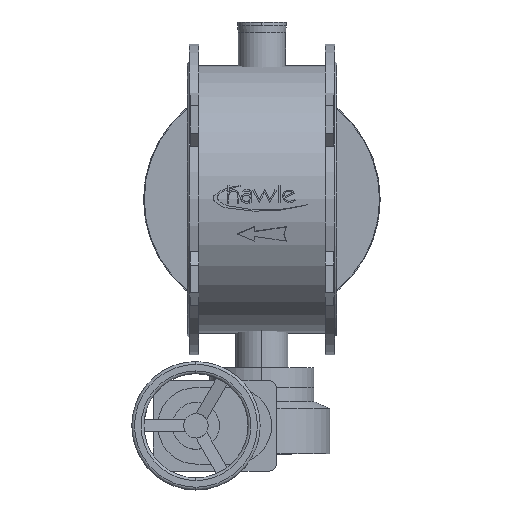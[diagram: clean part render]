
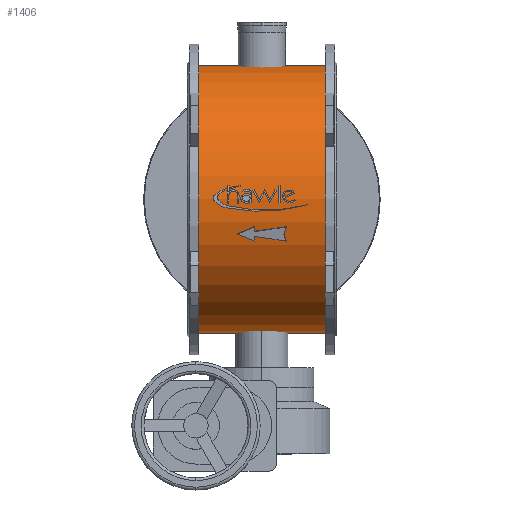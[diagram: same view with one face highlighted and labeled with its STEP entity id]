
A CAD part, top view. The second image highlights one B-rep face of the part: STEP entity #1406.
In plain terms, the highlighted cylindrical face has radius 386 mm (diameter 772 mm), a partial arc.
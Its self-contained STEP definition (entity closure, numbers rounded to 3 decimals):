
#1406=ADVANCED_FACE('',(#2823),#2824,.T.);
#2823=FACE_OUTER_BOUND('',#4738,.T.);
#2824=CYLINDRICAL_SURFACE('',#4739,386.0);
#4738=EDGE_LOOP('',(#7259,#7260,#7261,#7262));
#4739=AXIS2_PLACEMENT_3D('',#7263,#7264,#7265);
#7259=ORIENTED_EDGE('',*,*,#10746,.T.);
#7260=ORIENTED_EDGE('',*,*,#10747,.T.);
#7261=ORIENTED_EDGE('',*,*,#10748,.T.);
#7262=ORIENTED_EDGE('',*,*,#10749,.T.);
#7263=CARTESIAN_POINT('',(-397.5,0.,0.0));
#7264=DIRECTION('',(1.0,0.,0.0));
#7265=DIRECTION('',(0.,-1.0,0.0));
#10746=EDGE_CURVE('',#12882,#12883,#12884,.T.);
#10747=EDGE_CURVE('',#12883,#12885,#12886,.T.);
#10748=EDGE_CURVE('',#12885,#12887,#12888,.T.);
#10749=EDGE_CURVE('',#12887,#12882,#12889,.T.);
#12882=VERTEX_POINT('',#15588);
#12883=VERTEX_POINT('',#15589);
#12884=LINE('',#15590,#15591);
#12885=VERTEX_POINT('',#15592);
#12886=CIRCLE('',#15593,386.0);
#12887=VERTEX_POINT('',#15594);
#12888=LINE('',#15595,#15596);
#12889=CIRCLE('',#15597,386.0);
#15588=CARTESIAN_POINT('',(-397.5,-386.0,0.0));
#15589=CARTESIAN_POINT('',(-32.5,-386.0,0.0));
#15590=CARTESIAN_POINT('',(-397.5,-386.0,0.));
#15591=VECTOR('',#18024,1.0);
#15592=CARTESIAN_POINT('',(-32.5,386.0,0.));
#15593=AXIS2_PLACEMENT_3D('',#18025,#18026,#18027);
#15594=CARTESIAN_POINT('',(-397.5,386.0,0.));
#15595=CARTESIAN_POINT('',(-397.5,386.0,0.));
#15596=VECTOR('',#18028,1.0);
#15597=AXIS2_PLACEMENT_3D('',#18029,#18030,#18031);
#18024=DIRECTION('',(1.0,0.,0.0));
#18025=CARTESIAN_POINT('',(-32.5,0.,0.0));
#18026=DIRECTION('',(-1.0,0.,0.0));
#18027=DIRECTION('',(0.,-1.0,0.0));
#18028=DIRECTION('',(-1.0,0.,-0.0));
#18029=CARTESIAN_POINT('',(-397.5,0.,0.0));
#18030=DIRECTION('',(1.0,0.,0.0));
#18031=DIRECTION('',(0.,-1.0,0.0));
